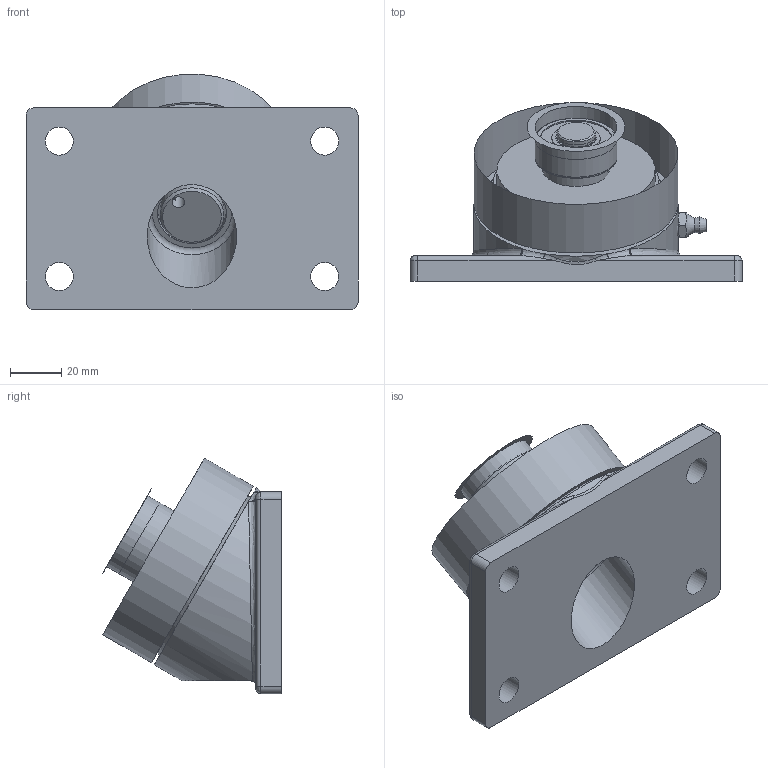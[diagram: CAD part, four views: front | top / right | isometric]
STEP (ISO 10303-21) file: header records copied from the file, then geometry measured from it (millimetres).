
FILE_DESCRIPTION(/* description */ (''),/* implementation_level */ '2;1');
FILE_NAME(/* name */ 'Z:\35-j-ito\製品モデル\SW-I\SW-70-I\HP用\SW-70-I.stp',/* time_stamp */ '2022-04-04T17:33:58+09:00',/* author */ ('j-ito'),/* organization */ (''),/* preprocessor_version */ 'ST-DEVELOPER v18.1',/* originating_system */ 'Autodesk Inventor 2022',/* authorisation */ '');
FILE_SCHEMA (('AUTOMOTIVE_DESIGN { 1 0 10303 214 3 1 1 }'));
Length unit declared in the file: millimetre
Products named in the file (3): SW-70-I; SW-70-I_1; グリスニップル
Assembly tree (2 placements, depth 2):
  SW-70-I
    SW-70-I_1
    グリスニップル
Bounding box: 130 x 69.99 x 92.18 mm (x, y, z)
Volume: 285140.6 mm3; surface area: 60109.8 mm2
Topology: 2 solids, 2 shells, 125 faces, 269 edges, 168 vertices
Faces by surface type: cylinder 42, plane 38, cone 26, bspline 13, torus 6
Full cylindrical faces by diameter (mm): 1.5 x1, 3 x1, 4.917 x1, 8 x1, 11 x4, 14.3 x1, 15 x3, 16 x1, 19 x2, 25 x1, 26 x1, 27 x1, 28 x2, 32 x1, 32.1 x1, 35 x2, 62.1 x1, 65 x2, 80 x1
Entity records: 4074 total; most frequent: CARTESIAN_POINT 1120, DIRECTION 605, ORIENTED_EDGE 534, EDGE_CURVE 267, AXIS2_PLACEMENT_3D 263, VERTEX_POINT 168, EDGE_LOOP 159, CIRCLE 136
